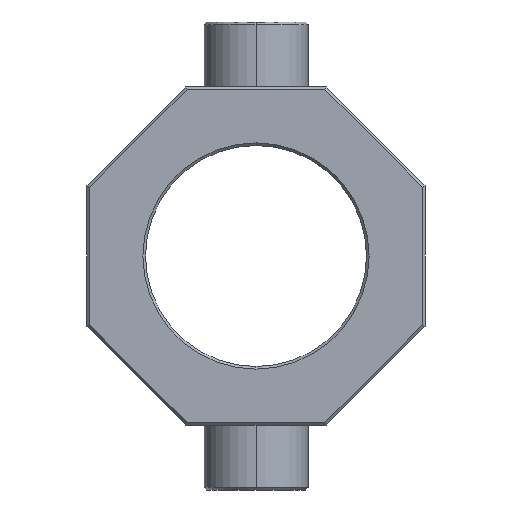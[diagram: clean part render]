
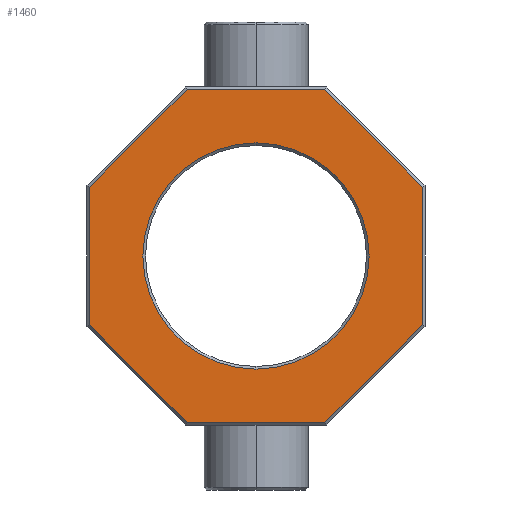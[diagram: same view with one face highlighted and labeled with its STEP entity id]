
A CAD part, left-side view. The second image highlights one B-rep face of the part: STEP entity #1460.
In plain terms, the highlighted planar face has unit normal (-1, 0, 0).
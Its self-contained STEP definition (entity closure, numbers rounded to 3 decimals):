
#30 = ORIENTED_EDGE ( 'NONE', *, *, #1473, .T. ) ;
#47 = DIRECTION ( 'NONE',  ( 0., 0.707, -0.707 ) ) ;
#74 = VECTOR ( 'NONE', #1667, 1000. ) ;
#86 = DIRECTION ( 'NONE',  ( 0., 0., 1. ) ) ;
#115 = DIRECTION ( 'NONE',  ( 1., 0., 0. ) ) ;
#134 = LINE ( 'NONE', #763, #1680 ) ;
#147 = CARTESIAN_POINT ( 'NONE',  ( -25., 0., 0. ) ) ;
#173 = EDGE_CURVE ( 'NONE', #600, #1032, #1864, .T. ) ;
#199 = CARTESIAN_POINT ( 'NONE',  ( -25., -26.51, -64. ) ) ;
#204 = CARTESIAN_POINT ( 'NONE',  ( -25., 0., -43.5 ) ) ;
#205 = ORIENTED_EDGE ( 'NONE', *, *, #1878, .T. ) ;
#252 = CARTESIAN_POINT ( 'NONE',  ( -25., 45.255, -45.255 ) ) ;
#295 = ORIENTED_EDGE ( 'NONE', *, *, #1266, .T. ) ;
#308 = VECTOR ( 'NONE', #86, 1000. ) ;
#326 = EDGE_CURVE ( 'NONE', #1197, #1956, #1539, .T. ) ;
#345 = LINE ( 'NONE', #1938, #1314 ) ;
#346 = ORIENTED_EDGE ( 'NONE', *, *, #1796, .T. ) ;
#359 = VERTEX_POINT ( 'NONE', #1216 ) ;
#360 = FACE_BOUND ( 'NONE', #415, .T. ) ;
#390 = VECTOR ( 'NONE', #1370, 1000. ) ;
#415 = EDGE_LOOP ( 'NONE', ( #1534, #346 ) ) ;
#439 = LINE ( 'NONE', #1069, #1078 ) ;
#453 = LINE ( 'NONE', #621, #1615 ) ;
#495 = CARTESIAN_POINT ( 'NONE',  ( -25., 0., 64. ) ) ;
#505 = DIRECTION ( 'NONE',  ( 0., 0., 1. ) ) ;
#551 = LINE ( 'NONE', #1184, #308 ) ;
#578 = AXIS2_PLACEMENT_3D ( 'NONE', #1286, #1923, #505 ) ;
#589 = CARTESIAN_POINT ( 'NONE',  ( -25., -64., -26.51 ) ) ;
#590 = EDGE_CURVE ( 'NONE', #1155, #2040, #134, .T. ) ;
#600 = VERTEX_POINT ( 'NONE', #816 ) ;
#621 = CARTESIAN_POINT ( 'NONE',  ( -25., 64., 0. ) ) ;
#667 = CARTESIAN_POINT ( 'NONE',  ( -25., 0., 0. ) ) ;
#705 = DIRECTION ( 'NONE',  ( 0., 0., 1. ) ) ;
#728 = CARTESIAN_POINT ( 'NONE',  ( -25., 0., -64. ) ) ;
#763 = CARTESIAN_POINT ( 'NONE',  ( -25., -45.255, 45.255 ) ) ;
#786 = VERTEX_POINT ( 'NONE', #589 ) ;
#804 = EDGE_CURVE ( 'NONE', #786, #1155, #551, .T. ) ;
#816 = CARTESIAN_POINT ( 'NONE',  ( -25., 0., 43.5 ) ) ;
#830 = AXIS2_PLACEMENT_3D ( 'NONE', #667, #1344, #705 ) ;
#835 = ORIENTED_EDGE ( 'NONE', *, *, #1137, .T. ) ;
#844 = CIRCLE ( 'NONE', #1649, 43.5 ) ;
#882 = CARTESIAN_POINT ( 'NONE',  ( -25., -64., 26.51 ) ) ;
#933 = DIRECTION ( 'NONE',  ( 0., -0.707, 0.707 ) ) ;
#1032 = VERTEX_POINT ( 'NONE', #204 ) ;
#1069 = CARTESIAN_POINT ( 'NONE',  ( -25., -45.255, -45.255 ) ) ;
#1075 = ORIENTED_EDGE ( 'NONE', *, *, #1958, .T. ) ;
#1078 = VECTOR ( 'NONE', #933, 1000. ) ;
#1105 = DIRECTION ( 'NONE',  ( 0., 0., -1. ) ) ;
#1137 = EDGE_CURVE ( 'NONE', #1956, #1391, #1662, .T. ) ;
#1155 = VERTEX_POINT ( 'NONE', #882 ) ;
#1184 = CARTESIAN_POINT ( 'NONE',  ( -25., -64., 0. ) ) ;
#1190 = CARTESIAN_POINT ( 'NONE',  ( -25., 64., -26.51 ) ) ;
#1197 = VERTEX_POINT ( 'NONE', #1190 ) ;
#1216 = CARTESIAN_POINT ( 'NONE',  ( -25., 26.51, 64. ) ) ;
#1243 = CARTESIAN_POINT ( 'NONE',  ( -25., -26.51, 64. ) ) ;
#1266 = EDGE_CURVE ( 'NONE', #1391, #786, #439, .T. ) ;
#1274 = CARTESIAN_POINT ( 'NONE',  ( -25., 26.51, -64. ) ) ;
#1277 = VECTOR ( 'NONE', #1306, 1000. ) ;
#1286 = CARTESIAN_POINT ( 'NONE',  ( -25., 0., 0. ) ) ;
#1306 = DIRECTION ( 'NONE',  ( 0., 1., 0. ) ) ;
#1314 = VECTOR ( 'NONE', #47, 1000. ) ;
#1341 = VERTEX_POINT ( 'NONE', #1880 ) ;
#1344 = DIRECTION ( 'NONE',  ( 1., 0., 0. ) ) ;
#1370 = DIRECTION ( 'NONE',  ( 0., -1., 0. ) ) ;
#1391 = VERTEX_POINT ( 'NONE', #199 ) ;
#1396 = DIRECTION ( 'NONE',  ( 0., 0., 1. ) ) ;
#1460 = ADVANCED_FACE ( 'NONE', ( #1597, #360 ), #1931, .T. ) ;
#1473 = EDGE_CURVE ( 'NONE', #2040, #359, #1622, .T. ) ;
#1532 = EDGE_LOOP ( 'NONE', ( #205, #1075, #1630, #835, #295, #1687, #1895, #30 ) ) ;
#1534 = ORIENTED_EDGE ( 'NONE', *, *, #173, .T. ) ;
#1539 = LINE ( 'NONE', #252, #74 ) ;
#1597 = FACE_OUTER_BOUND ( 'NONE', #1532, .T. ) ;
#1615 = VECTOR ( 'NONE', #1105, 1000. ) ;
#1622 = LINE ( 'NONE', #495, #1277 ) ;
#1630 = ORIENTED_EDGE ( 'NONE', *, *, #326, .T. ) ;
#1649 = AXIS2_PLACEMENT_3D ( 'NONE', #147, #115, #1396 ) ;
#1662 = LINE ( 'NONE', #728, #390 ) ;
#1667 = DIRECTION ( 'NONE',  ( 0., -0.707, -0.707 ) ) ;
#1680 = VECTOR ( 'NONE', #2042, 1000. ) ;
#1687 = ORIENTED_EDGE ( 'NONE', *, *, #804, .T. ) ;
#1796 = EDGE_CURVE ( 'NONE', #1032, #600, #844, .T. ) ;
#1864 = CIRCLE ( 'NONE', #830, 43.5 ) ;
#1878 = EDGE_CURVE ( 'NONE', #359, #1341, #345, .T. ) ;
#1880 = CARTESIAN_POINT ( 'NONE',  ( -25., 64., 26.51 ) ) ;
#1895 = ORIENTED_EDGE ( 'NONE', *, *, #590, .T. ) ;
#1923 = DIRECTION ( 'NONE',  ( -1., 0., 0. ) ) ;
#1931 = PLANE ( 'NONE',  #578 ) ;
#1938 = CARTESIAN_POINT ( 'NONE',  ( -25., 45.255, 45.255 ) ) ;
#1956 = VERTEX_POINT ( 'NONE', #1274 ) ;
#1958 = EDGE_CURVE ( 'NONE', #1341, #1197, #453, .T. ) ;
#2040 = VERTEX_POINT ( 'NONE', #1243 ) ;
#2042 = DIRECTION ( 'NONE',  ( 0., 0.707, 0.707 ) ) ;
